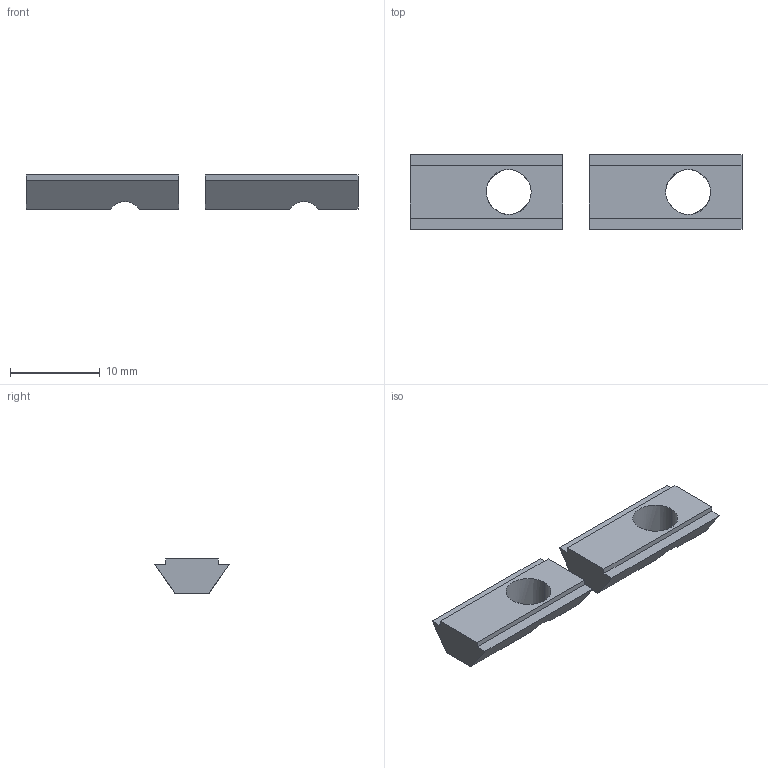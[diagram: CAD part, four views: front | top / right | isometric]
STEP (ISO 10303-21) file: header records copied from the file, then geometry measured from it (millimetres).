
FILE_DESCRIPTION(/* description */ (''),/* implementation_level */ '2;1');
FILE_NAME(/* name */ '8.x-drive#8.3#HNTPZ5-5',/* time_stamp */ '2014-12-01T20:18:04+01:00',/* author */ (''),/* organization */ (''),/* preprocessor_version */ 'ST-DEVELOPER v14',/* originating_system */ '',/* authorisation */ '');
FILE_SCHEMA (('AUTOMOTIVE_DESIGN'));
Length unit declared in the file: millimetre
Products named in the file (2): Document; nut tslot, post, M5
Assembly tree (2 placements, depth 2):
  Document
    nut tslot, post, M5  x2
Bounding box: 37 x 8.3 x 3.8 mm (x, y, z)
Volume: 630 mm3; surface area: 839 mm2
Topology: 2 solids, 2 shells, 26 faces, 72 edges, 48 vertices
Faces by surface type: plane 22, bspline 4
Entity records: 1009 total; most frequent: CARTESIAN_POINT 461, B_SPLINE_CURVE_WITH_KNOTS 100, ORIENTED_EDGE 72, PCURVE 72, DEFINITIONAL_REPRESENTATION 72, SURFACE_CURVE 36, EDGE_CURVE 36, VERTEX_POINT 24
